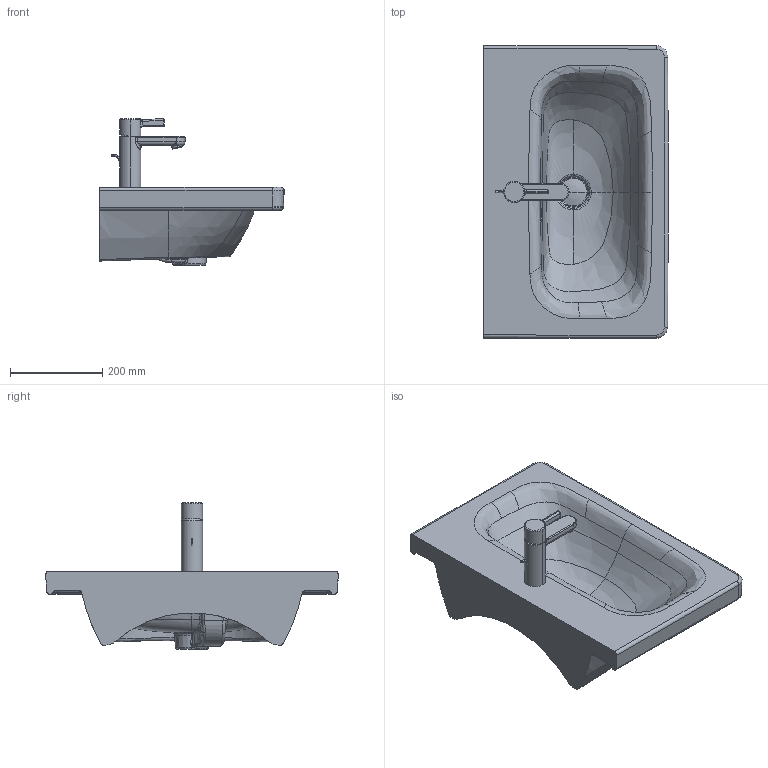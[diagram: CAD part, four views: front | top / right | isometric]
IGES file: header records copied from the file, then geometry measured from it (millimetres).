
Global section: file name: No Iges File Name specified; native system: Autodesk Inventor 2011; preprocessor: AutoDesk Inventor Iges Exporter R2011; author: Administrator; date: 20160601.162618; units: millimetre
Bounding box: 399.93 x 634.45 x 317.6 mm (x, y, z)
Volume: 11255002 mm3; surface area: 961884.6 mm2
Topology: 7 solids, 7 shells, 388 faces, 980 edges, 609 vertices
Faces by surface type: bspline 167, plane 72, cylinder 57, revolution 53, torus 28, cone 9, sphere 2
